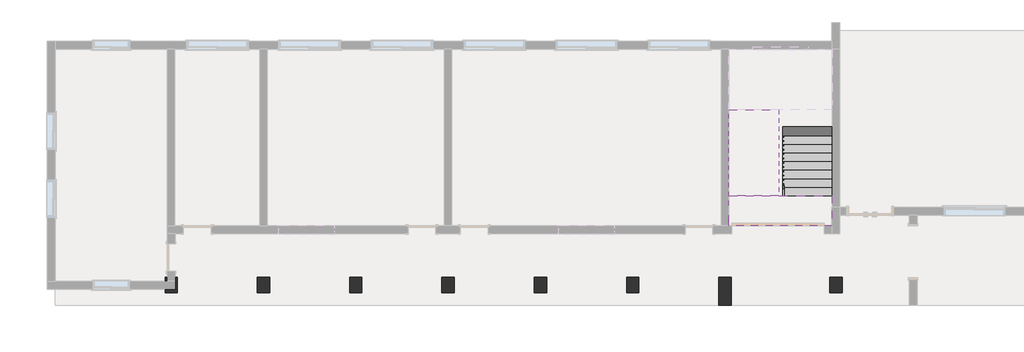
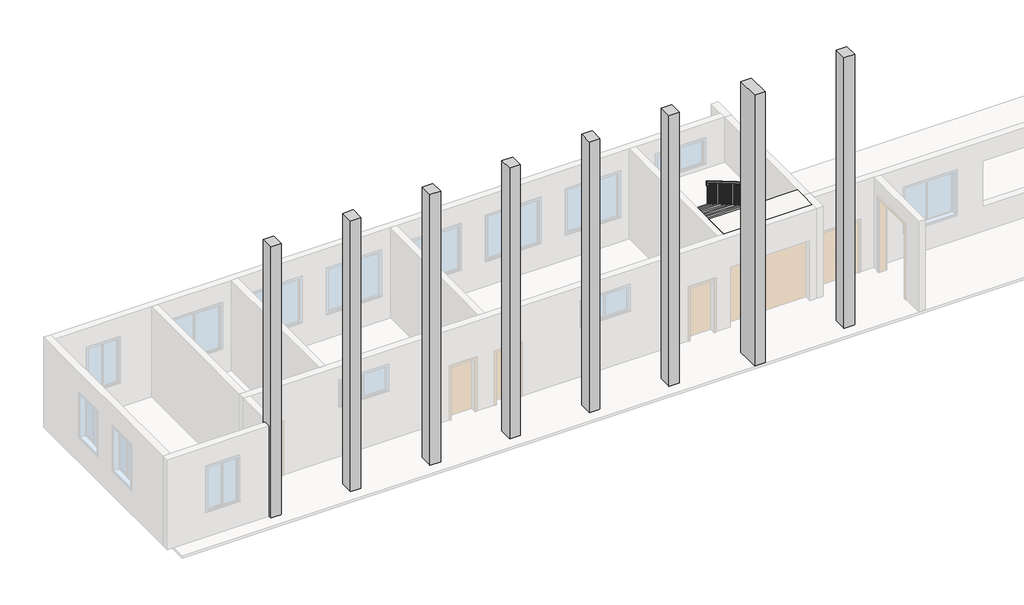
# One storey, part 2 of 3: 8 columns, 2 stair flights, 1 railing, 1 slab.
"""IFC4 building model written with IfcOpenShell, lengths in millimetres."""

from ifc_helpers import new_model, si_unit, frame, origin, place, context, project, spatial, polyline, outline, extrude, faceted_brep, transform, mapped, element, save
from components import column_400_x_500mm_e6ad250b, column_400_x_900mm_c4ad373b

model = new_model("IFC4")

# Units and contexts
model_context = context("Model", 3, world=origin())
ifc_project = project(units=[si_unit("LENGTHUNIT", "METRE", prefix="MILLI")], contexts=[model_context])

# Site, building, storey
site = spatial("IfcSite", under=ifc_project)
building = spatial("IfcBuilding", under=site)
storey = spatial("IfcBuildingStorey", under=building, Name="标高 1", Elevation=0.0)

# Columns
placement = place(None, origin())
column_400_x_500mm_shape = column_400_x_500mm_e6ad250b(model_context)
element("IfcColumn", 1, ObjectType="混凝土 - 矩形 - 柱 : 400 x 500mm", at=placement, inside=storey, context=model_context, shape_type="MappedRepresentation", body=[
    mapped(column_400_x_500mm_shape, transform((-4580.3834175, -6150.9601487, 0.0), x_axis=(1.0, 0.0, 0.0), y_axis=(0.0, 1.0, 0.0), z_axis=(0.0, 0.0, 1.0))),
])
element("IfcColumn", 2, ObjectType="混凝土 - 矩形 - 柱 : 400 x 500mm", at=placement, inside=storey, context=model_context, shape_type="MappedRepresentation", body=[
    mapped(column_400_x_500mm_shape, transform((-1580.3834175, -6150.9601487, 0.0), x_axis=(1.0, 0.0, 0.0), y_axis=(0.0, 1.0, 0.0), z_axis=(0.0, 0.0, 1.0))),
])
element("IfcColumn", 3, ObjectType="混凝土 - 矩形 - 柱 : 400 x 500mm", at=placement, inside=storey, context=model_context, shape_type="MappedRepresentation", body=[
    mapped(column_400_x_500mm_shape, transform((1419.6165825, -6150.9601487, 0.0), x_axis=(1.0, 0.0, 0.0), y_axis=(0.0, 1.0, 0.0), z_axis=(0.0, 0.0, 1.0))),
])
element("IfcColumn", 4, ObjectType="混凝土 - 矩形 - 柱 : 400 x 500mm", at=placement, inside=storey, context=model_context, shape_type="MappedRepresentation", body=[
    mapped(column_400_x_500mm_shape, transform((4419.6165825, -6150.9601487, 0.0), x_axis=(1.0, 0.0, 0.0), y_axis=(0.0, 1.0, 0.0), z_axis=(0.0, 0.0, 1.0))),
])
element("IfcColumn", 5, ObjectType="混凝土 - 矩形 - 柱 : 400 x 500mm", at=placement, inside=storey, context=model_context, shape_type="MappedRepresentation", body=[
    mapped(column_400_x_500mm_shape, transform((7419.6165825, -6150.9601487, 0.0), x_axis=(1.0, 0.0, 0.0), y_axis=(0.0, 1.0, 0.0), z_axis=(0.0, 0.0, 1.0))),
])
element("IfcColumn", 6, ObjectType="混凝土 - 矩形 - 柱 : 400 x 500mm", at=placement, inside=storey, context=model_context, shape_type="MappedRepresentation", body=[
    mapped(column_400_x_500mm_shape, transform((10419.6165825, -6150.9601487, 0.0), x_axis=(1.0, 0.0, 0.0), y_axis=(0.0, 1.0, 0.0), z_axis=(0.0, 0.0, 1.0))),
])
element("IfcColumn", 7, ObjectType="混凝土 - 矩形 - 柱 : 400 x 500mm", at=placement, inside=storey, context=model_context, shape_type="MappedRepresentation", body=[
    mapped(column_400_x_500mm_shape, transform((17019.6165825, -6150.9601487, 0.0), x_axis=(1.0, 0.0, 0.0), y_axis=(0.0, 1.0, 0.0), z_axis=(0.0, 0.0, 1.0))),
])
column_400_x_900mm_shape = column_400_x_900mm_c4ad373b(model_context)
element("IfcColumn", 8, ObjectType="混凝土 - 矩形 - 柱 : 400 x 900mm", at=placement, inside=storey, context=model_context, shape_type="MappedRepresentation", body=[
    mapped(column_400_x_900mm_shape, transform((13419.6165825, -6350.9601487, 0.0), x_axis=(1.0, 0.0, 0.0), y_axis=(0.0, 1.0, 0.0), z_axis=(0.0, 0.0, 1.0))),
])

# Railing
element("IfcRailing", 9, ObjectType="900mm", at=placement, inside=storey, context=model_context, shape_type="SolidModel", body=[
    faceted_brep([(15154.2165825, -400.5601487, 2834.1818182), (15154.2165825, -450.5601487, 2805.4901295), (15104.2165825, -450.5601487, 2805.4901295), (15104.2165825, -400.5601487, 2834.1818182), (15154.2165825, -3250.9601487, 4500.0), (15104.2165825, -3250.9601487, 4500.0), (15104.2165825, -3250.9601487, 4442.0875321), (15154.2165825, -3250.9601487, 4442.0875321)], [[[0, 1, 2, 3]], [[4, 5, 6, 7]], [[1, 0, 4, 7]], [[2, 1, 7, 6]], [[3, 2, 6, 5]], [[0, 3, 5, 4]]]),
    faceted_brep([(15154.2165825, -450.5601487, 2700.0), (15154.2165825, -400.5601487, 2700.0), (15104.2165825, -400.5601487, 2650.0), (15104.2165825, -450.5601487, 2650.0), (15210.0165825, -450.5601487, 2650.0), (15210.0165825, -450.5601487, 2700.0), (15210.0165825, -400.5601487, 2650.0), (15210.0165825, -400.5601487, 2700.0), (15285.0165825, -3250.9601487, 1063.6363636), (15285.0165825, -3250.9601487, 1005.7238957), (15335.0165825, -3250.9601487, 1005.7238957), (15335.0165825, -3250.9601487, 1063.6363636), (15285.0165825, -525.5601487, 2656.4025974), (15285.0165825, -475.5601487, 2627.7109087), (15335.0165825, -475.5601487, 2627.7109087), (15335.0165825, -525.5601487, 2656.4025974), (15285.0165825, -525.5601487, 2700.0), (15285.0165825, -475.5601487, 2650.0), (15335.0165825, -475.5601487, 2650.0), (15335.0165825, -525.5601487, 2700.0), (15285.0165825, -450.5601487, 2700.0), (15285.0165825, -450.5601487, 2650.0), (15335.0165825, -400.5601487, 2650.0), (15335.0165825, -400.5601487, 2700.0)], [[[0, 1, 2, 3]], [[4, 5, 0, 3]], [[6, 4, 3, 2]], [[7, 6, 2, 1]], [[5, 7, 1, 0]], [[8, 9, 10, 11]], [[9, 8, 12, 13]], [[10, 9, 13, 14]], [[11, 10, 14, 15]], [[8, 11, 15, 12]], [[13, 12, 16, 17]], [[14, 13, 17, 18]], [[15, 14, 18, 19]], [[12, 15, 19, 16]], [[17, 16, 20, 21]], [[18, 17, 21, 22]], [[19, 18, 22, 23]], [[16, 19, 23, 20]], [[21, 20, 5, 4]], [[22, 21, 4, 6]], [[23, 22, 6, 7]], [[20, 23, 7, 5]]]),
    faceted_brep([(15154.2165825, -450.5601487, 2700.0), (15104.2165825, -450.5601487, 2650.0), (15104.2165825, -400.5601487, 2650.0), (15154.2165825, -400.5601487, 2700.0), (15154.2165825, -450.5601487, 2805.4901295), (15154.2165825, -400.5601487, 2834.1818182), (15104.2165825, -400.5601487, 2834.1818182), (15104.2165825, -450.5601487, 2805.4901295)], [[[0, 1, 2, 3]], [[4, 5, 6, 7]], [[1, 0, 4, 7]], [[2, 1, 7, 6]], [[3, 2, 6, 5]], [[0, 3, 5, 4]]]),
    extrude(outline(polyline([(-3145.5601487, 1067.3212983), (-3145.5601487, 163.6363636), (-3165.5601487, 163.6363636), (-3165.5601487, 1055.6329866), (-3145.5601487, 1067.3212983)])), frame((15300.0165825, 0.0, 0.0), z_axis=(1.0, 0.0, 0.0), x_axis=(0.0, 1.0, 0.0)), (0.0, 0.0, 1.0), 20.0),
    extrude(outline(polyline([(-3005.5601487, 1149.1394802), (-3005.5601487, 163.6363636), (-3025.5601487, 163.6363636), (-3025.5601487, 1137.4511685), (-3005.5601487, 1149.1394802)])), frame((15300.0165825, 0.0, 0.0), z_axis=(1.0, 0.0, 0.0), x_axis=(0.0, 1.0, 0.0)), (0.0, 0.0, 1.0), 20.0),
    extrude(outline(polyline([(-2865.5601487, 1230.957662), (-2865.5601487, 327.2727273), (-2885.5601487, 327.2727273), (-2885.5601487, 1219.2693503), (-2865.5601487, 1230.957662)])), frame((15300.0165825, 0.0, 0.0), z_axis=(1.0, 0.0, 0.0), x_axis=(0.0, 1.0, 0.0)), (0.0, 0.0, 1.0), 20.0),
    extrude(outline(polyline([(-2725.5601487, 1312.7758438), (-2725.5601487, 327.2727273), (-2745.5601487, 327.2727273), (-2745.5601487, 1301.0875321), (-2725.5601487, 1312.7758438)])), frame((15300.0165825, 0.0, 0.0), z_axis=(1.0, 0.0, 0.0), x_axis=(0.0, 1.0, 0.0)), (0.0, 0.0, 1.0), 20.0),
    extrude(outline(polyline([(-2585.5601487, 1394.5940256), (-2585.5601487, 490.9090909), (-2605.5601487, 490.9090909), (-2605.5601487, 1382.9057139), (-2585.5601487, 1394.5940256)])), frame((15300.0165825, 0.0, 0.0), z_axis=(1.0, 0.0, 0.0), x_axis=(0.0, 1.0, 0.0)), (0.0, 0.0, 1.0), 20.0),
    extrude(outline(polyline([(-2445.5601487, 1476.4122074), (-2445.5601487, 490.9090909), (-2465.5601487, 490.9090909), (-2465.5601487, 1464.7238957), (-2445.5601487, 1476.4122074)])), frame((15300.0165825, 0.0, 0.0), z_axis=(1.0, 0.0, 0.0), x_axis=(0.0, 1.0, 0.0)), (0.0, 0.0, 1.0), 20.0),
    extrude(outline(polyline([(-2305.5601487, 1558.2303892), (-2305.5601487, 654.5454545), (-2325.5601487, 654.5454545), (-2325.5601487, 1546.5420776), (-2305.5601487, 1558.2303892)])), frame((15300.0165825, 0.0, 0.0), z_axis=(1.0, 0.0, 0.0), x_axis=(0.0, 1.0, 0.0)), (0.0, 0.0, 1.0), 20.0),
    extrude(outline(polyline([(-2165.5601487, 1640.0485711), (-2165.5601487, 654.5454545), (-2185.5601487, 654.5454545), (-2185.5601487, 1628.3602594), (-2165.5601487, 1640.0485711)])), frame((15300.0165825, 0.0, 0.0), z_axis=(1.0, 0.0, 0.0), x_axis=(0.0, 1.0, 0.0)), (0.0, 0.0, 1.0), 20.0),
    extrude(outline(polyline([(-2025.5601487, 1721.8667529), (-2025.5601487, 818.1818182), (-2045.5601487, 818.1818182), (-2045.5601487, 1710.1784412), (-2025.5601487, 1721.8667529)])), frame((15300.0165825, 0.0, 0.0), z_axis=(1.0, 0.0, 0.0), x_axis=(0.0, 1.0, 0.0)), (0.0, 0.0, 1.0), 20.0),
    extrude(outline(polyline([(-1885.5601487, 1803.6849347), (-1885.5601487, 818.1818182), (-1905.5601487, 818.1818182), (-1905.5601487, 1791.996623), (-1885.5601487, 1803.6849347)])), frame((15300.0165825, 0.0, 0.0), z_axis=(1.0, 0.0, 0.0), x_axis=(0.0, 1.0, 0.0)), (0.0, 0.0, 1.0), 20.0),
    extrude(outline(polyline([(-1745.5601487, 1885.5031165), (-1745.5601487, 981.8181818), (-1765.5601487, 981.8181818), (-1765.5601487, 1873.8148048), (-1745.5601487, 1885.5031165)])), frame((15300.0165825, 0.0, 0.0), z_axis=(1.0, 0.0, 0.0), x_axis=(0.0, 1.0, 0.0)), (0.0, 0.0, 1.0), 20.0),
    extrude(outline(polyline([(-1605.5601487, 1967.3212983), (-1605.5601487, 981.8181818), (-1625.5601487, 981.8181818), (-1625.5601487, 1955.6329866), (-1605.5601487, 1967.3212983)])), frame((15300.0165825, 0.0, 0.0), z_axis=(1.0, 0.0, 0.0), x_axis=(0.0, 1.0, 0.0)), (0.0, 0.0, 1.0), 20.0),
    extrude(outline(polyline([(-1465.5601487, 2049.1394802), (-1465.5601487, 1145.4545455), (-1485.5601487, 1145.4545455), (-1485.5601487, 2037.4511685), (-1465.5601487, 2049.1394802)])), frame((15300.0165825, 0.0, 0.0), z_axis=(1.0, 0.0, 0.0), x_axis=(0.0, 1.0, 0.0)), (0.0, 0.0, 1.0), 20.0),
    extrude(outline(polyline([(-1325.5601487, 2130.957662), (-1325.5601487, 1145.4545455), (-1345.5601487, 1145.4545455), (-1345.5601487, 2119.2693503), (-1325.5601487, 2130.957662)])), frame((15300.0165825, 0.0, 0.0), z_axis=(1.0, 0.0, 0.0), x_axis=(0.0, 1.0, 0.0)), (0.0, 0.0, 1.0), 20.0),
    extrude(outline(polyline([(-1185.5601487, 2212.7758438), (-1185.5601487, 1309.0909091), (-1205.5601487, 1309.0909091), (-1205.5601487, 2201.0875321), (-1185.5601487, 2212.7758438)])), frame((15300.0165825, 0.0, 0.0), z_axis=(1.0, 0.0, 0.0), x_axis=(0.0, 1.0, 0.0)), (0.0, 0.0, 1.0), 20.0),
    extrude(outline(polyline([(-1045.5601487, 2294.5940256), (-1045.5601487, 1309.0909091), (-1065.5601487, 1309.0909091), (-1065.5601487, 2282.9057139), (-1045.5601487, 2294.5940256)])), frame((15300.0165825, 0.0, 0.0), z_axis=(1.0, 0.0, 0.0), x_axis=(0.0, 1.0, 0.0)), (0.0, 0.0, 1.0), 20.0),
    extrude(outline(polyline([(-905.5601487, 2376.4122074), (-905.5601487, 1472.7272727), (-925.5601487, 1472.7272727), (-925.5601487, 2364.7238957), (-905.5601487, 2376.4122074)])), frame((15300.0165825, 0.0, 0.0), z_axis=(1.0, 0.0, 0.0), x_axis=(0.0, 1.0, 0.0)), (0.0, 0.0, 1.0), 20.0),
    extrude(outline(polyline([(-765.5601487, 2458.2303892), (-765.5601487, 1472.7272727), (-785.5601487, 1472.7272727), (-785.5601487, 2446.5420776), (-765.5601487, 2458.2303892)])), frame((15300.0165825, 0.0, 0.0), z_axis=(1.0, 0.0, 0.0), x_axis=(0.0, 1.0, 0.0)), (0.0, 0.0, 1.0), 20.0),
    extrude(outline(polyline([(-625.5601487, 2540.0485711), (-625.5601487, 1636.3636364), (-645.5601487, 1636.3636364), (-645.5601487, 2528.3602594), (-625.5601487, 2540.0485711)])), frame((15300.0165825, 0.0, 0.0), z_axis=(1.0, 0.0, 0.0), x_axis=(0.0, 1.0, 0.0)), (0.0, 0.0, 1.0), 20.0),
    extrude(outline(polyline([(15300.0165825, -485.5601487), (15320.0165825, -485.5601487), (15320.0165825, -505.5601487), (15300.0165825, -505.5601487), (15300.0165825, -485.5601487)])), frame((0.0, 0.0, 1636.3636364), z_axis=(0.0, 0.0, 1.0), x_axis=(1.0, 0.0, 0.0)), (0.0, 0.0, 1.0), 1013.6363636),
    extrude(outline(polyline([(15189.2165825, -435.5601487), (15189.2165825, -415.5601487), (15209.2165825, -415.5601487), (15209.2165825, -435.5601487), (15189.2165825, -435.5601487)])), frame((0.0, 0.0, 1800.0), z_axis=(0.0, 0.0, 1.0), x_axis=(1.0, 0.0, 0.0)), (0.0, 0.0, 1.0), 850.0),
    extrude(outline(polyline([(-530.9601487, 1963.6363636), (-530.9601487, 2852.4771425), (-510.9601487, 2840.7888308), (-510.9601487, 1963.6363636), (-530.9601487, 1963.6363636)])), frame((15119.2165825, 0.0, 0.0), z_axis=(1.0, 0.0, 0.0), x_axis=(0.0, 1.0, 0.0)), (0.0, 0.0, 1.0), 20.0),
    extrude(outline(polyline([(-670.9601487, 1963.6363636), (-670.9601487, 2934.2953243), (-650.9601487, 2922.6070126), (-650.9601487, 1963.6363636), (-670.9601487, 1963.6363636)])), frame((15119.2165825, 0.0, 0.0), z_axis=(1.0, 0.0, 0.0), x_axis=(0.0, 1.0, 0.0)), (0.0, 0.0, 1.0), 20.0),
    extrude(outline(polyline([(-810.9601487, 2127.2727273), (-810.9601487, 3016.1135061), (-790.9601487, 3004.4251944), (-790.9601487, 2127.2727273), (-810.9601487, 2127.2727273)])), frame((15119.2165825, 0.0, 0.0), z_axis=(1.0, 0.0, 0.0), x_axis=(0.0, 1.0, 0.0)), (0.0, 0.0, 1.0), 20.0),
    extrude(outline(polyline([(-950.9601487, 2127.2727273), (-950.9601487, 3097.9316879), (-930.9601487, 3086.2433763), (-930.9601487, 2127.2727273), (-950.9601487, 2127.2727273)])), frame((15119.2165825, 0.0, 0.0), z_axis=(1.0, 0.0, 0.0), x_axis=(0.0, 1.0, 0.0)), (0.0, 0.0, 1.0), 20.0),
    extrude(outline(polyline([(-1090.9601487, 2290.9090909), (-1090.9601487, 3179.7498698), (-1070.9601487, 3168.0615581), (-1070.9601487, 2290.9090909), (-1090.9601487, 2290.9090909)])), frame((15119.2165825, 0.0, 0.0), z_axis=(1.0, 0.0, 0.0), x_axis=(0.0, 1.0, 0.0)), (0.0, 0.0, 1.0), 20.0),
    extrude(outline(polyline([(-1230.9601487, 2290.9090909), (-1230.9601487, 3261.5680516), (-1210.9601487, 3249.8797399), (-1210.9601487, 2290.9090909), (-1230.9601487, 2290.9090909)])), frame((15119.2165825, 0.0, 0.0), z_axis=(1.0, 0.0, 0.0), x_axis=(0.0, 1.0, 0.0)), (0.0, 0.0, 1.0), 20.0),
    extrude(outline(polyline([(-1370.9601487, 2454.5454545), (-1370.9601487, 3343.3862334), (-1350.9601487, 3331.6979217), (-1350.9601487, 2454.5454545), (-1370.9601487, 2454.5454545)])), frame((15119.2165825, 0.0, 0.0), z_axis=(1.0, 0.0, 0.0), x_axis=(0.0, 1.0, 0.0)), (0.0, 0.0, 1.0), 20.0),
    extrude(outline(polyline([(-1510.9601487, 2454.5454545), (-1510.9601487, 3425.2044152), (-1490.9601487, 3413.5161035), (-1490.9601487, 2454.5454545), (-1510.9601487, 2454.5454545)])), frame((15119.2165825, 0.0, 0.0), z_axis=(1.0, 0.0, 0.0), x_axis=(0.0, 1.0, 0.0)), (0.0, 0.0, 1.0), 20.0),
    extrude(outline(polyline([(-1650.9601487, 2618.1818182), (-1650.9601487, 3507.022597), (-1630.9601487, 3495.3342853), (-1630.9601487, 2618.1818182), (-1650.9601487, 2618.1818182)])), frame((15119.2165825, 0.0, 0.0), z_axis=(1.0, 0.0, 0.0), x_axis=(0.0, 1.0, 0.0)), (0.0, 0.0, 1.0), 20.0),
    extrude(outline(polyline([(-1790.9601487, 2618.1818182), (-1790.9601487, 3588.8407789), (-1770.9601487, 3577.1524672), (-1770.9601487, 2618.1818182), (-1790.9601487, 2618.1818182)])), frame((15119.2165825, 0.0, 0.0), z_axis=(1.0, 0.0, 0.0), x_axis=(0.0, 1.0, 0.0)), (0.0, 0.0, 1.0), 20.0),
    extrude(outline(polyline([(-1930.9601487, 2781.8181818), (-1930.9601487, 3670.6589607), (-1910.9601487, 3658.970649), (-1910.9601487, 2781.8181818), (-1930.9601487, 2781.8181818)])), frame((15119.2165825, 0.0, 0.0), z_axis=(1.0, 0.0, 0.0), x_axis=(0.0, 1.0, 0.0)), (0.0, 0.0, 1.0), 20.0),
    extrude(outline(polyline([(-2070.9601487, 2781.8181818), (-2070.9601487, 3752.4771425), (-2050.9601487, 3740.7888308), (-2050.9601487, 2781.8181818), (-2070.9601487, 2781.8181818)])), frame((15119.2165825, 0.0, 0.0), z_axis=(1.0, 0.0, 0.0), x_axis=(0.0, 1.0, 0.0)), (0.0, 0.0, 1.0), 20.0),
    extrude(outline(polyline([(-2210.9601487, 2945.4545455), (-2210.9601487, 3834.2953243), (-2190.9601487, 3822.6070126), (-2190.9601487, 2945.4545455), (-2210.9601487, 2945.4545455)])), frame((15119.2165825, 0.0, 0.0), z_axis=(1.0, 0.0, 0.0), x_axis=(0.0, 1.0, 0.0)), (0.0, 0.0, 1.0), 20.0),
    extrude(outline(polyline([(-2350.9601487, 2945.4545455), (-2350.9601487, 3916.1135061), (-2330.9601487, 3904.4251944), (-2330.9601487, 2945.4545455), (-2350.9601487, 2945.4545455)])), frame((15119.2165825, 0.0, 0.0), z_axis=(1.0, 0.0, 0.0), x_axis=(0.0, 1.0, 0.0)), (0.0, 0.0, 1.0), 20.0),
    extrude(outline(polyline([(-2490.9601487, 3109.0909091), (-2490.9601487, 3997.9316879), (-2470.9601487, 3986.2433763), (-2470.9601487, 3109.0909091), (-2490.9601487, 3109.0909091)])), frame((15119.2165825, 0.0, 0.0), z_axis=(1.0, 0.0, 0.0), x_axis=(0.0, 1.0, 0.0)), (0.0, 0.0, 1.0), 20.0),
    extrude(outline(polyline([(-2630.9601487, 3109.0909091), (-2630.9601487, 4079.7498698), (-2610.9601487, 4068.0615581), (-2610.9601487, 3109.0909091), (-2630.9601487, 3109.0909091)])), frame((15119.2165825, 0.0, 0.0), z_axis=(1.0, 0.0, 0.0), x_axis=(0.0, 1.0, 0.0)), (0.0, 0.0, 1.0), 20.0),
    extrude(outline(polyline([(-2770.9601487, 3272.7272727), (-2770.9601487, 4161.5680516), (-2750.9601487, 4149.8797399), (-2750.9601487, 3272.7272727), (-2770.9601487, 3272.7272727)])), frame((15119.2165825, 0.0, 0.0), z_axis=(1.0, 0.0, 0.0), x_axis=(0.0, 1.0, 0.0)), (0.0, 0.0, 1.0), 20.0),
    extrude(outline(polyline([(-2910.9601487, 3272.7272727), (-2910.9601487, 4243.3862334), (-2890.9601487, 4231.6979217), (-2890.9601487, 3272.7272727), (-2910.9601487, 3272.7272727)])), frame((15119.2165825, 0.0, 0.0), z_axis=(1.0, 0.0, 0.0), x_axis=(0.0, 1.0, 0.0)), (0.0, 0.0, 1.0), 20.0),
    extrude(outline(polyline([(-3050.9601487, 3436.3636364), (-3050.9601487, 4325.2044152), (-3030.9601487, 4313.5161035), (-3030.9601487, 3436.3636364), (-3050.9601487, 3436.3636364)])), frame((15119.2165825, 0.0, 0.0), z_axis=(1.0, 0.0, 0.0), x_axis=(0.0, 1.0, 0.0)), (0.0, 0.0, 1.0), 20.0),
    extrude(outline(polyline([(-3190.9601487, 3436.3636364), (-3190.9601487, 4407.022597), (-3170.9601487, 4395.3342853), (-3170.9601487, 3436.3636364), (-3190.9601487, 3436.3636364)])), frame((15119.2165825, 0.0, 0.0), z_axis=(1.0, 0.0, 0.0), x_axis=(0.0, 1.0, 0.0)), (0.0, 0.0, 1.0), 20.0),
    extrude(outline(polyline([(15300.0165825, -435.5601487), (15300.0165825, -415.5601487), (15320.0165825, -415.5601487), (15320.0165825, -435.5601487), (15300.0165825, -435.5601487)])), frame((0.0, 0.0, 1800.0), z_axis=(0.0, 0.0, 1.0), x_axis=(1.0, 0.0, 0.0)), (0.0, 0.0, 1.0), 850.0),
    extrude(outline(polyline([(-435.5601487, 1800.0), (-435.5601487, 2796.7238957), (-415.5601487, 2785.035584), (-415.5601487, 1800.0), (-435.5601487, 1800.0)])), frame((15119.2165825, 0.0, 0.0), z_axis=(1.0, 0.0, 0.0), x_axis=(0.0, 1.0, 0.0)), (0.0, 0.0, 1.0), 20.0),
    extrude(outline(polyline([(-3230.9601487, 1017.4122074), (-3230.9601487, 163.6363636), (-3250.9601487, 163.6363636), (-3250.9601487, 1005.7238957), (-3230.9601487, 1017.4122074)])), frame((15300.0165825, 0.0, 0.0), z_axis=(1.0, 0.0, 0.0), x_axis=(0.0, 1.0, 0.0)), (0.0, 0.0, 1.0), 20.0),
    extrude(outline(polyline([(-3250.9601487, 3436.3636364), (-3250.9601487, 4442.0875321), (-3230.9601487, 4430.3992204), (-3230.9601487, 3436.3636364), (-3250.9601487, 3436.3636364)])), frame((15119.2165825, 0.0, 0.0), z_axis=(1.0, 0.0, 0.0), x_axis=(0.0, 1.0, 0.0)), (0.0, 0.0, 1.0), 20.0),
])

# Slab
element("IfcSlab", 10, ObjectType="100mm 厚度", at=placement, inside=storey, context=model_context, shape_type="Brep", body=[
    faceted_brep([(15154.6165825, -3250.9601487, 3600.0), (13539.6165825, -3250.9601487, 3600.0), (13539.6165825, -3558.0383721, 3600.0), (13539.6165825, -4220.9601487, 3600.0), (16889.6165825, -4220.9601487, 3600.0), (16889.6165825, -3250.9601487, 3600.0), (16889.6165825, -4220.9601487, 3500.0), (16889.6165825, -3250.9601487, 3500.0), (13539.6165825, -3250.9601487, 3436.3636364), (13539.6165825, -3250.9601487, 3320.5387006), (13539.6165825, -3558.0383721, 3500.0), (13539.6165825, -4220.9601487, 3500.0), (15154.6165825, -3558.0383721, 3500.0), (15154.6165825, -3250.9601487, 3500.0), (15154.6165825, -3250.9601487, 3436.3636364), (15154.6165825, -3250.9601487, 3320.5387006)], [[[0, 1, 2, 3, 4, 5]], [[5, 4, 6, 7]], [[1, 8, 9, 10, 11, 3, 2]], [[4, 3, 11, 6]], [[10, 12, 13, 7, 6, 11]], [[1, 0, 13, 14, 15, 9, 8]], [[0, 5, 7, 13]], [[12, 10, 9, 15]], [[13, 12, 15, 14]]]),
])

# Stair flights
element("IfcStairFlight", 11, ObjectType="100mm 结构深度", at=placement, inside=storey, context=model_context, shape_type="Brep", body=[
    faceted_brep([(15284.6165825, -2970.9601487, 163.6363636), (15284.6165825, -3250.9601487, 163.6363636), (16899.6165825, -3250.9601487, 163.6363636), (16899.6165825, -2970.9601487, 163.6363636), (15284.6165825, -2970.9601487, 47.8114278), (15284.6165825, -3052.7708141, 0.0), (15284.6165825, -3250.9601487, 0.0), (16899.6165825, -3250.9601487, 0.0), (16899.6165825, -3052.7708141, 0.0), (16899.6165825, -2970.9601487, 47.8114278), (15284.6165825, -2690.9601487, 327.2727273), (15284.6165825, -2970.9601487, 327.2727273), (16899.6165825, -2970.9601487, 327.2727273), (16899.6165825, -2690.9601487, 327.2727273), (15284.6165825, -2690.9601487, 211.4477915), (16899.6165825, -2690.9601487, 211.4477915), (15284.6165825, -2410.9601487, 490.9090909), (15284.6165825, -2690.9601487, 490.9090909), (16899.6165825, -2690.9601487, 490.9090909), (16899.6165825, -2410.9601487, 490.9090909), (15284.6165825, -2410.9601487, 375.0841551), (16899.6165825, -2410.9601487, 375.0841551), (15284.6165825, -2130.9601487, 654.5454545), (15284.6165825, -2410.9601487, 654.5454545), (16899.6165825, -2410.9601487, 654.5454545), (16899.6165825, -2130.9601487, 654.5454545), (15284.6165825, -2130.9601487, 538.7205187), (16899.6165825, -2130.9601487, 538.7205187), (15284.6165825, -1850.9601487, 818.1818182), (15284.6165825, -2130.9601487, 818.1818182), (16899.6165825, -2130.9601487, 818.1818182), (16899.6165825, -1850.9601487, 818.1818182), (15284.6165825, -1850.9601487, 702.3568824), (16899.6165825, -1850.9601487, 702.3568824), (15284.6165825, -1570.9601487, 981.8181818), (15284.6165825, -1850.9601487, 981.8181818), (16899.6165825, -1850.9601487, 981.8181818), (16899.6165825, -1570.9601487, 981.8181818), (15284.6165825, -1570.9601487, 865.993246), (16899.6165825, -1570.9601487, 865.993246), (15284.6165825, -1290.9601487, 1145.4545455), (15284.6165825, -1570.9601487, 1145.4545455), (16899.6165825, -1570.9601487, 1145.4545455), (16899.6165825, -1290.9601487, 1145.4545455), (15284.6165825, -1290.9601487, 1029.6296097), (16899.6165825, -1290.9601487, 1029.6296097), (15284.6165825, -1010.9601487, 1309.0909091), (15284.6165825, -1290.9601487, 1309.0909091), (16899.6165825, -1290.9601487, 1309.0909091), (16899.6165825, -1010.9601487, 1309.0909091), (15284.6165825, -1010.9601487, 1193.2659733), (16899.6165825, -1010.9601487, 1193.2659733), (15284.6165825, -730.9601487, 1472.7272727), (15284.6165825, -1010.9601487, 1472.7272727), (16899.6165825, -1010.9601487, 1472.7272727), (16899.6165825, -730.9601487, 1472.7272727), (15284.6165825, -730.9601487, 1356.9023369), (16899.6165825, -730.9601487, 1356.9023369), (15284.6165825, -450.9601487, 1636.3636364), (15284.6165825, -730.9601487, 1636.3636364), (16899.6165825, -730.9601487, 1636.3636364), (16899.6165825, -450.9601487, 1636.3636364), (15284.6165825, -450.9601487, 1520.5387006), (16899.6165825, -450.9601487, 1520.5387006)], [[[0, 1, 2, 3]], [[1, 0, 4, 5, 6]], [[2, 1, 6, 7]], [[3, 2, 7, 8, 9]], [[10, 11, 12, 13]], [[11, 10, 14, 4, 0]], [[0, 3, 12, 11]], [[13, 12, 3, 9, 15]], [[16, 17, 18, 19]], [[17, 16, 20, 14, 10]], [[10, 13, 18, 17]], [[19, 18, 13, 15, 21]], [[22, 23, 24, 25]], [[23, 22, 26, 20, 16]], [[16, 19, 24, 23]], [[25, 24, 19, 21, 27]], [[28, 29, 30, 31]], [[29, 28, 32, 26, 22]], [[22, 25, 30, 29]], [[31, 30, 25, 27, 33]], [[34, 35, 36, 37]], [[35, 34, 38, 32, 28]], [[28, 31, 36, 35]], [[37, 36, 31, 33, 39]], [[40, 41, 42, 43]], [[41, 40, 44, 38, 34]], [[34, 37, 42, 41]], [[43, 42, 37, 39, 45]], [[46, 47, 48, 49]], [[47, 46, 50, 44, 40]], [[40, 43, 48, 47]], [[49, 48, 43, 45, 51]], [[52, 53, 54, 55]], [[53, 52, 56, 50, 46]], [[46, 49, 54, 53]], [[55, 54, 49, 51, 57]], [[58, 59, 60, 61]], [[59, 58, 62, 56, 52]], [[52, 55, 60, 59]], [[61, 60, 55, 57, 63]], [[58, 61, 63, 62]], [[7, 6, 5, 8]], [[8, 5, 4, 14, 20, 26, 32, 38, 44, 50, 56, 62, 63, 57, 51, 45, 39, 33, 27, 21, 15, 9]]]),
])
element("IfcStairFlight", 12, ObjectType="100mm 结构深度", at=placement, inside=storey, context=model_context, shape_type="Brep", body=[
    faceted_brep([(15154.6165825, -450.9601487, 1963.6363636), (13539.6165825, -450.9601487, 1963.6363636), (13539.6165825, -478.0383721, 1963.6363636), (13539.6165825, -730.9601487, 1963.6363636), (15154.6165825, -730.9601487, 1963.6363636), (15154.6165825, -478.0383721, 1963.6363636), (15154.6165825, -730.9601487, 1847.8114278), (15154.6165825, -478.0383721, 1700.0), (15154.6165825, -450.9601487, 1700.0), (13539.6165825, -450.9601487, 1700.0), (13539.6165825, -450.9601487, 1800.0), (13539.6165825, -478.0383721, 1700.0), (13539.6165825, -730.9601487, 1847.8114278), (15154.6165825, -1010.9601487, 2127.2727273), (15154.6165825, -730.9601487, 2127.2727273), (13539.6165825, -730.9601487, 2127.2727273), (13539.6165825, -1010.9601487, 2127.2727273), (15154.6165825, -1010.9601487, 2011.4477915), (13539.6165825, -1010.9601487, 2011.4477915), (15154.6165825, -1290.9601487, 2290.9090909), (15154.6165825, -1010.9601487, 2290.9090909), (13539.6165825, -1010.9601487, 2290.9090909), (13539.6165825, -1290.9601487, 2290.9090909), (15154.6165825, -1290.9601487, 2175.0841551), (13539.6165825, -1290.9601487, 2175.0841551), (15154.6165825, -1570.9601487, 2454.5454545), (15154.6165825, -1290.9601487, 2454.5454545), (13539.6165825, -1290.9601487, 2454.5454545), (13539.6165825, -1570.9601487, 2454.5454545), (15154.6165825, -1570.9601487, 2338.7205187), (13539.6165825, -1570.9601487, 2338.7205187), (15154.6165825, -1850.9601487, 2618.1818182), (15154.6165825, -1570.9601487, 2618.1818182), (13539.6165825, -1570.9601487, 2618.1818182), (13539.6165825, -1850.9601487, 2618.1818182), (15154.6165825, -1850.9601487, 2502.3568824), (13539.6165825, -1850.9601487, 2502.3568824), (15154.6165825, -2130.9601487, 2781.8181818), (15154.6165825, -1850.9601487, 2781.8181818), (13539.6165825, -1850.9601487, 2781.8181818), (13539.6165825, -2130.9601487, 2781.8181818), (15154.6165825, -2130.9601487, 2665.993246), (13539.6165825, -2130.9601487, 2665.993246), (15154.6165825, -2410.9601487, 2945.4545455), (15154.6165825, -2130.9601487, 2945.4545455), (13539.6165825, -2130.9601487, 2945.4545455), (13539.6165825, -2410.9601487, 2945.4545455), (15154.6165825, -2410.9601487, 2829.6296097), (13539.6165825, -2410.9601487, 2829.6296097), (15154.6165825, -2690.9601487, 3109.0909091), (15154.6165825, -2410.9601487, 3109.0909091), (13539.6165825, -2410.9601487, 3109.0909091), (13539.6165825, -2690.9601487, 3109.0909091), (15154.6165825, -2690.9601487, 2993.2659733), (13539.6165825, -2690.9601487, 2993.2659733), (15154.6165825, -2970.9601487, 3272.7272727), (15154.6165825, -2690.9601487, 3272.7272727), (13539.6165825, -2690.9601487, 3272.7272727), (13539.6165825, -2970.9601487, 3272.7272727), (15154.6165825, -2970.9601487, 3156.9023369), (13539.6165825, -2970.9601487, 3156.9023369), (15154.6165825, -3250.9601487, 3436.3636364), (15154.6165825, -2970.9601487, 3436.3636364), (13539.6165825, -2970.9601487, 3436.3636364), (13539.6165825, -3250.9601487, 3436.3636364), (15154.6165825, -3250.9601487, 3320.5387006), (13539.6165825, -3250.9601487, 3320.5387006)], [[[0, 1, 2, 3, 4, 5]], [[4, 6, 7, 8, 0, 5]], [[1, 0, 8, 9, 10]], [[1, 10, 9, 11, 12, 3, 2]], [[13, 14, 15, 16]], [[14, 13, 17, 6, 4]], [[15, 14, 4, 3]], [[16, 15, 3, 12, 18]], [[19, 20, 21, 22]], [[20, 19, 23, 17, 13]], [[21, 20, 13, 16]], [[22, 21, 16, 18, 24]], [[25, 26, 27, 28]], [[26, 25, 29, 23, 19]], [[27, 26, 19, 22]], [[28, 27, 22, 24, 30]], [[31, 32, 33, 34]], [[32, 31, 35, 29, 25]], [[33, 32, 25, 28]], [[34, 33, 28, 30, 36]], [[37, 38, 39, 40]], [[38, 37, 41, 35, 31]], [[39, 38, 31, 34]], [[40, 39, 34, 36, 42]], [[43, 44, 45, 46]], [[44, 43, 47, 41, 37]], [[45, 44, 37, 40]], [[46, 45, 40, 42, 48]], [[49, 50, 51, 52]], [[50, 49, 53, 47, 43]], [[51, 50, 43, 46]], [[52, 51, 46, 48, 54]], [[55, 56, 57, 58]], [[56, 55, 59, 53, 49]], [[57, 56, 49, 52]], [[58, 57, 52, 54, 60]], [[61, 62, 63, 64]], [[62, 61, 65, 59, 55]], [[63, 62, 55, 58]], [[64, 63, 58, 60, 66]], [[61, 64, 66, 65]], [[11, 7, 6, 17, 23, 29, 35, 41, 47, 53, 59, 65, 66, 60, 54, 48, 42, 36, 30, 24, 18, 12]], [[7, 11, 9, 8]]]),
])

save(model, "model.ifc")
